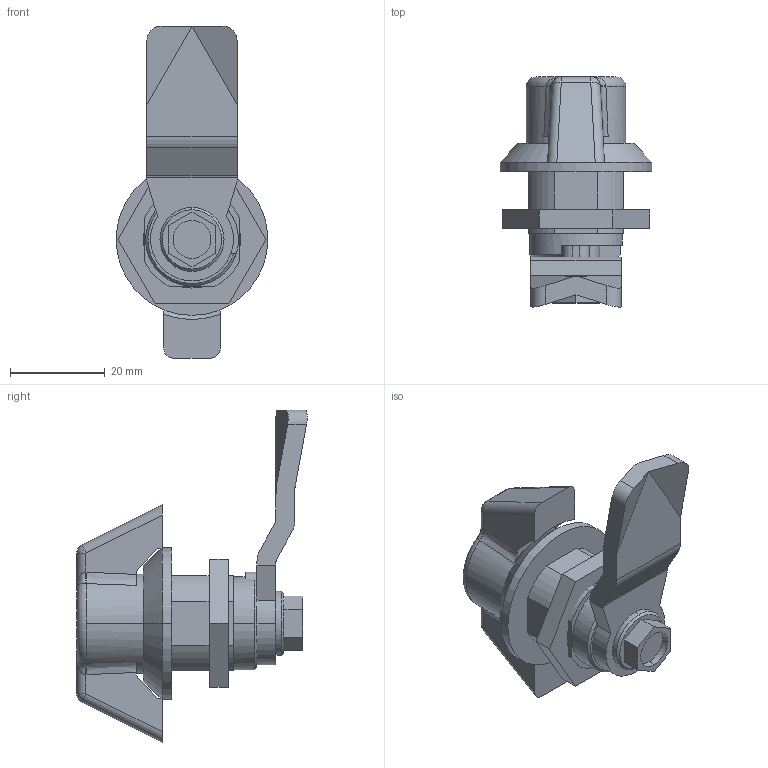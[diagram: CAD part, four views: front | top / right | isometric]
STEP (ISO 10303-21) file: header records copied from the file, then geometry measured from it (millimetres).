
FILE_DESCRIPTION (( 'STEP AP214' ), '1' );
FILE_NAME ('115-SKN-22-A4.step', '2023-07-12T12:42:10', ( '' ), ( '' ), 'SwSTEP 2.0', 'SolidWorks 2022', '' );
FILE_SCHEMA (( 'AUTOMOTIVE_DESIGN' ));
Length unit declared in the file: millimetre
Products named in the file (5): WB115_Betätigungswelle_Hebel^WB115_BE_SKN; WB115_Zunge^WB115_BE_22; WB115_Gegenmutter^WB115_BE; WB115_Gehäuse^WB115_BE_32; 115-SKN-22-A4
Assembly tree (4 placements, depth 2):
  115-SKN-22-A4
    WB115_Gehäuse^WB115_BE_32
    WB115_Betätigungswelle_Hebel^WB115_BE_SKN
    WB115_Zunge^WB115_BE_22
    WB115_Gegenmutter^WB115_BE
Bounding box: 32 x 48.59 x 70 mm (x, y, z)
Volume: 23595.5 mm3; surface area: 12444.7 mm2
Topology: 4 solids, 4 shells, 159 faces, 393 edges, 248 vertices
Faces by surface type: plane 76, cylinder 57, bspline 12, cone 7, sphere 5, torus 2
Entity records: 5778 total; most frequent: CARTESIAN_POINT 1353, DIRECTION 779, ORIENTED_EDGE 776, EDGE_CURVE 388, AXIS2_PLACEMENT_3D 286, VERTEX_POINT 248, LINE 207, VECTOR 207
